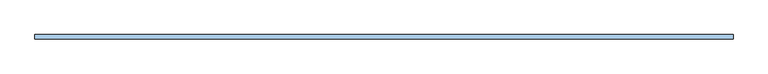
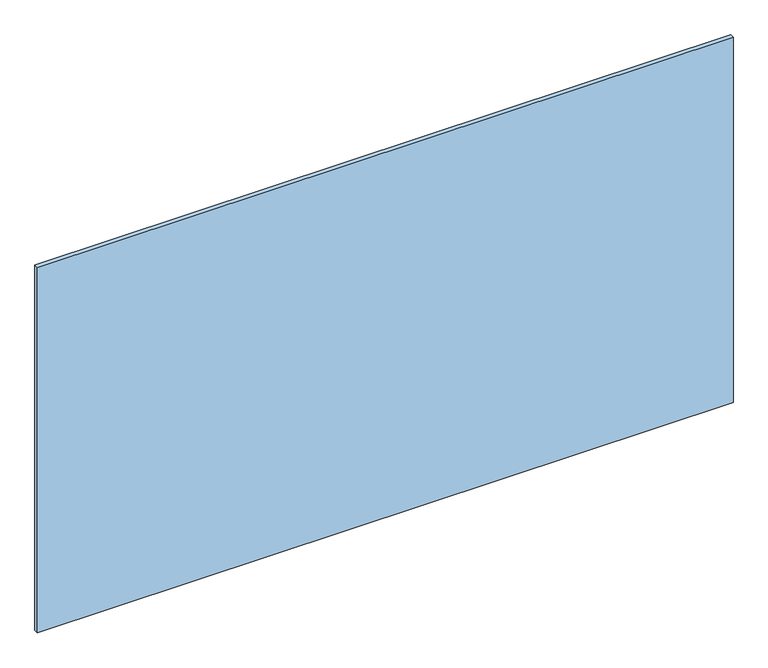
"""IFC4 building model written with IfcOpenShell, lengths in millimetres: window geometry, espejo biselado sin marco : ESP12espejo biselado 180 x 100."""

from ifc_helpers import new_model, si_unit, origin, origin_with_axes, place, context, project, spatial, polyline, outline, extrude, source, transform, mapped, element, save


def window_0928f371(model_context):
    return source(origin(), model_context, "Body", "SweptSolid", [
        extrude(outline(polyline([(-900.0, 19.0), (-900.0, 30.0), (900.0, 30.0), (900.0, 19.0), (-900.0, 19.0)])), origin_with_axes(), (0.0, 0.0, 1.0), 1000.0),
    ])


if __name__ == "__main__":
    model = new_model("IFC4")
    model_context = context("Model", 3, world=origin())
    ifc_project = project(units=[si_unit("LENGTHUNIT", "METRE", prefix="MILLI")], contexts=[model_context])
    site = spatial("IfcSite", under=ifc_project)
    building = spatial("IfcBuilding", under=site)
    placement = place(None, origin())
    window_shape = window_0928f371(model_context)
    element("IfcWindow", 1, ObjectType="espejo biselado sin marco : ESP12espejo biselado 180 x 100", at=placement, inside=building, context=model_context, shape_type="MappedRepresentation", body=[
        mapped(window_shape, transform((0.0, 0.0, 0.0), x_axis=(1.0, 0.0, 0.0), y_axis=(0.0, 1.0, 0.0), z_axis=(0.0, 0.0, 1.0))),
    ])
    save(model, "model.ifc")
